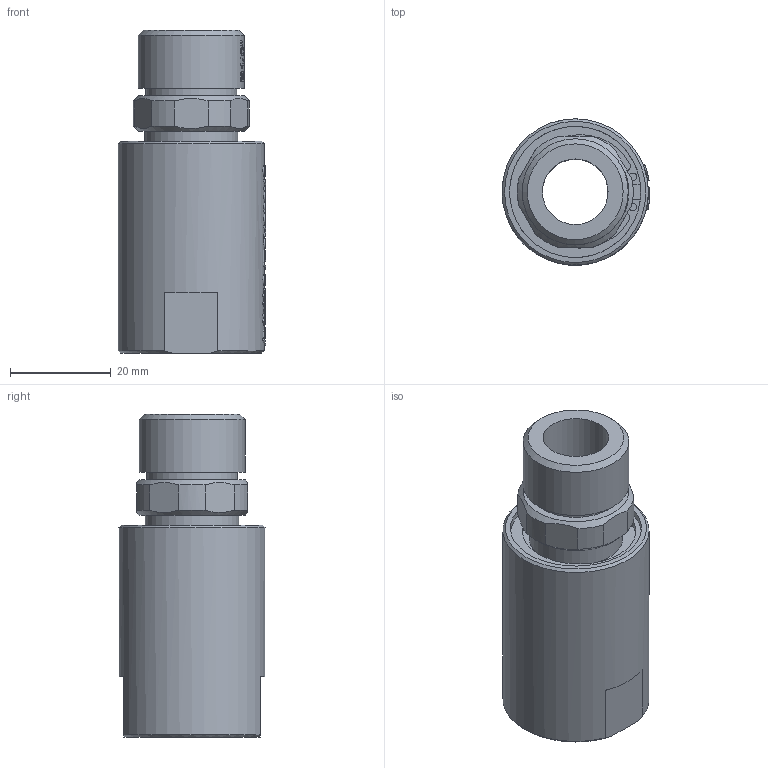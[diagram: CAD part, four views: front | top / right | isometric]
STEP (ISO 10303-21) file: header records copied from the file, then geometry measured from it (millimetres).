
FILE_DESCRIPTION(/* description */ (''),/* implementation_level */ '2;1');
FILE_NAME(/* name */ 'YYK0104(RH)-3D模型.stp',/* time_stamp */ '2025-07-09T09:09:50+08:00',/* author */ (''),/* organization */ (''),/* preprocessor_version */ 'ST-DEVELOPER v16.7',/* originating_system */ 'SIEMENS PLM Software NX 12.0',/* authorisation */ '');
FILE_SCHEMA (('AUTOMOTIVE_DESIGN { 1 0 10303 214 3 1 1 1 }'));
Products named in the file (1): Admi1300D6723vvd
Bounding box: 29.3 x 28.98 x 64.1 mm (x, y, z)
Volume: 24522.4 mm3; surface area: 9952 mm2
Topology: 1 solids, 1 shells, 1069 faces, 2963 edges, 1975 vertices
Faces by surface type: extrusion 641, plane 331, cylinder 48, bspline 43, cone 6
Full cylindrical faces by diameter (mm): 1.5 x2, 13 x1, 18 x1, 18.5 x2, 21 x1, 26 x1, 29 x1
Entity records: 44681 total; most frequent: CARTESIAN_POINT 21937, ORIENTED_EDGE 5890, B_SPLINE_CURVE_WITH_KNOTS 2996, EDGE_CURVE 2945, DIRECTION 2236, VERTEX_POINT 1970, EDGE_LOOP 1163, ADVANCED_FACE 1069
